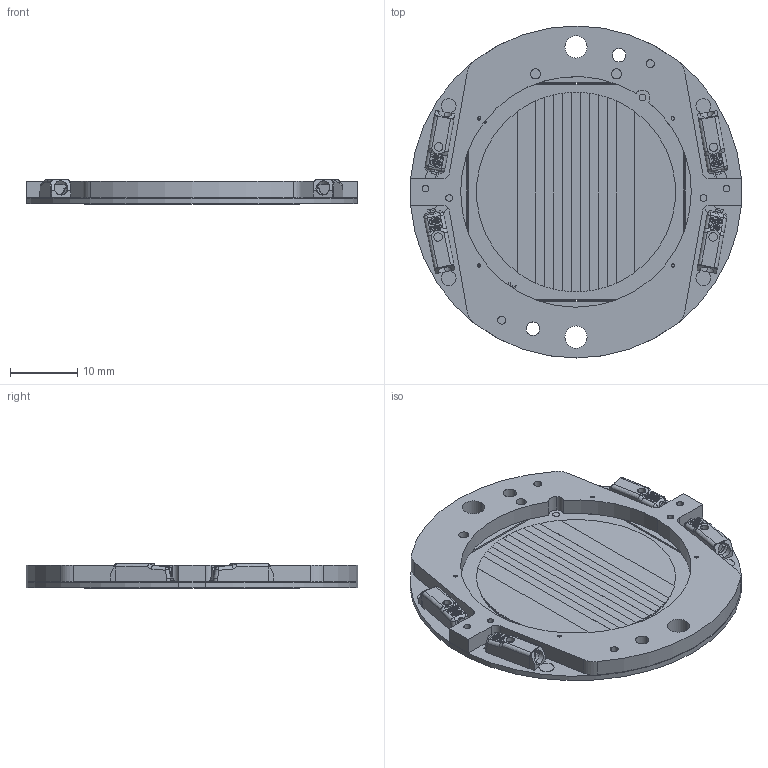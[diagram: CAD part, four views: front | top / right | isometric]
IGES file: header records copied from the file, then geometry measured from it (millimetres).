
Start section: SolidWorks IGES file using analytic representation for surfaces
Global section: file name: C:\Users\jiaqichen\Desktop\DW TW Holder-CoB\New folder\NTW 29 Holder-CoB Assembly.IGS; native system: SolidWorks 2020; preprocessor: SolidWorks 2020; author: jiaqichen; date: 200814.180036; units: millimetre
Bounding box: 49.04 x 49.2 x 3.7 mm (x, y, z)
Surface area: 6702.6 mm2 (no closed solid volume)
Topology: 0 solids, 2 shells, 1492 faces, 4064 edges, 2674 vertices
Faces by surface type: plane 939, revolution 478, bspline 75
